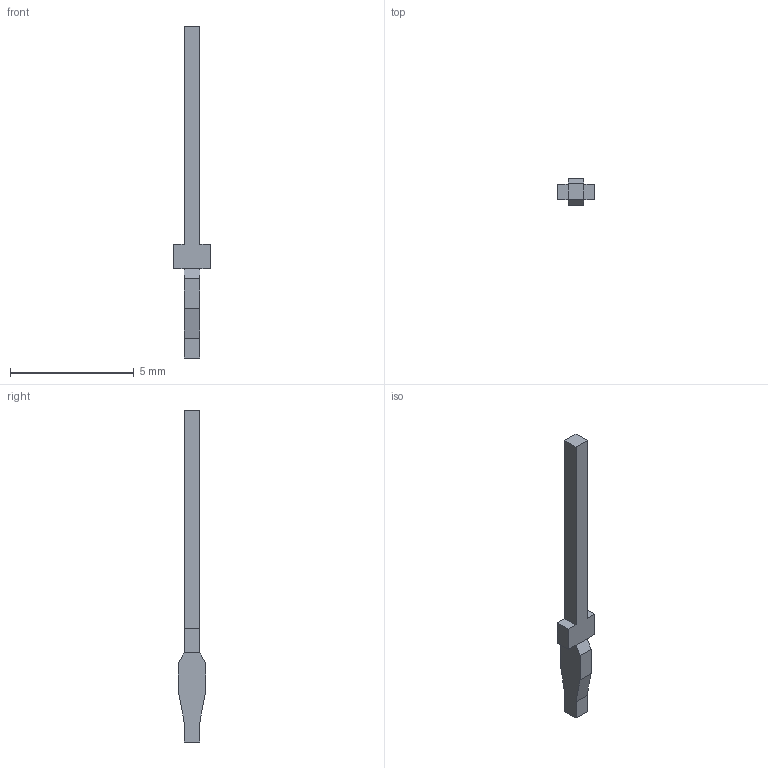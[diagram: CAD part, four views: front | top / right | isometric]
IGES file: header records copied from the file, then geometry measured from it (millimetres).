
Start section:  PTC IGES file: c-8-963964-4-b-3d.igs
Global section: file name: c-8-963964-4-b-3d.igs; native system: Creo Parametric by Parametric Technology Corporation; preprocessor: 2014090; author: workeradm; organization: Unknown; units: millimetre
Bounding box: 1.5 x 1.09 x 13.4 mm (x, y, z)
Surface area: 39.4 mm2 (no closed solid volume)
Topology: 0 solids, 0 shells, 22 faces, 112 edges, 112 vertices
Faces by surface type: bspline 22
